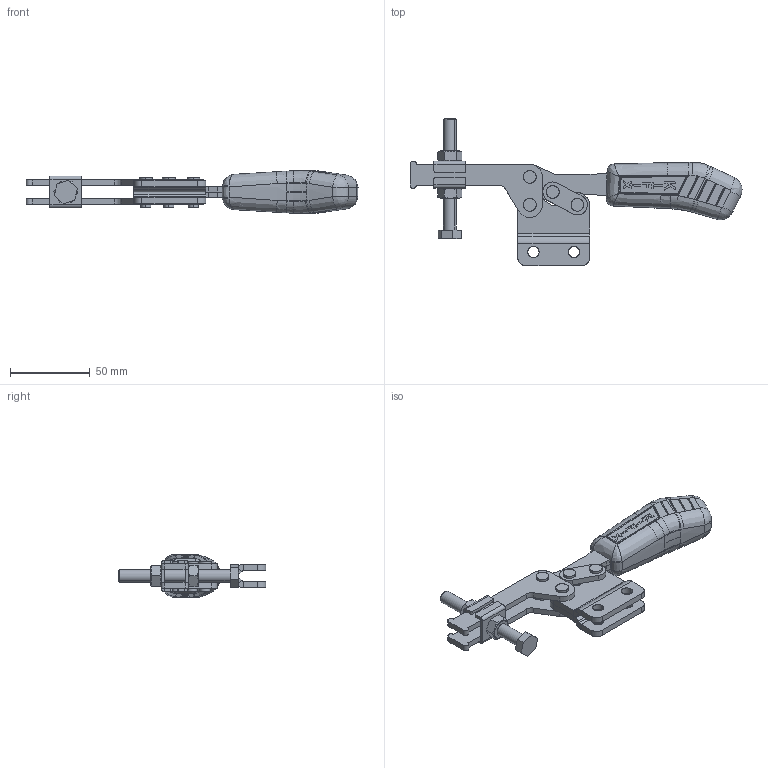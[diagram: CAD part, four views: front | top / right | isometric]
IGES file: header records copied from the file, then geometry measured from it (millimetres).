
Start section: SolidWorks IGES file using analytic representation for surfaces
Global section: file name: C:\Projetos\Grampos\KF-521\KF-521 R\KF-521 R.IGS; native system: SolidWorks 2013; preprocessor: SolidWorks 2013; author: Ricardo; date: 140822.163655; units: millimetre
Bounding box: 208.11 x 92.31 x 27.02 mm (x, y, z)
Surface area: 46572.8 mm2 (no closed solid volume)
Topology: 0 solids, 0 shells, 640 faces, 7243 edges, 7230 vertices
Faces by surface type: bspline 413, revolution 227
